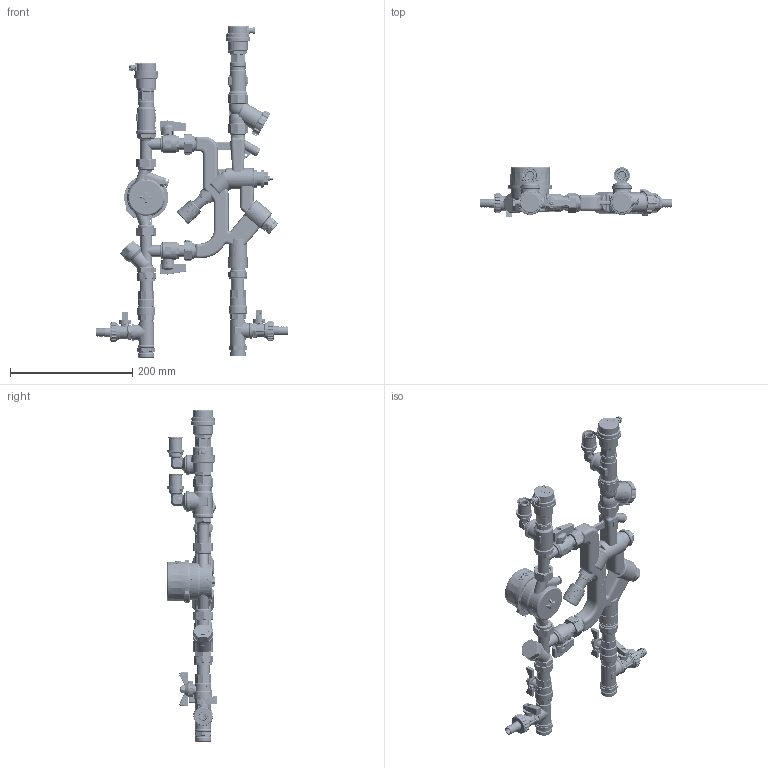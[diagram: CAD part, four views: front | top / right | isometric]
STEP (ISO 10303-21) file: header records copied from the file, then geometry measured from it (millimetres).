
FILE_DESCRIPTION(('TFLEX Exchange Step'),'2;1');
FILE_NAME('VT.IVCMP.06RS.R.R.stp', '2023-11-17T17:57:29+03:00',('denis'),('Unknown organisation'),'TFLEX Exchange 2023.0','T-FLEX CAD','Unknown authorisation');
FILE_SCHEMA( ('AUTOMOTIVE_DESIGN { 1 0 10303 214 1 1 1 1 }') );
Length unit declared in the file: millimetre
Products named in the file (1): VT.IVCMP.06RS.R.R
Bounding box: 315.4 x 82.1 x 543.21 mm (x, y, z)
Volume: 1068818.2 mm3; surface area: 402850 mm2
Topology: 99 solids, 101 shells, 16043 faces, 41672 edges, 26446 vertices
Faces by surface type: plane 4858, cylinder 4741, bspline 4434, torus 1197, cone 479, sphere 334
Full cylindrical faces by diameter (mm): 2 x3, 2.1 x3, 2.3 x2, 3.5 x2, 4 x3, 4.5 x2, 5 x5, 5.6 x3, 6 x4, 7 x4, 8 x7, 8.5 x3, 8.9 x2, 8.917 x2, 9 x3, 10 x4, 11 x4, 11.1 x2, 12 x5, 12.5 x6, 13 x1, 13.5 x3, 13.9 x2, 14 x2, 14.1 x1, 14.5 x2, 14.6 x2, 15 x16, 15.5 x2, 15.729 x2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
Entity records: 732040 total; most frequent: CARTESIAN_POINT 385932, ORIENTED_EDGE 82986, DIRECTION 53346, EDGE_CURVE 41493, VERTEX_POINT 26439, AXIS2_PLACEMENT_3D 18836, B_SPLINE_CURVE_WITH_KNOTS 17907, EDGE_LOOP 17026
